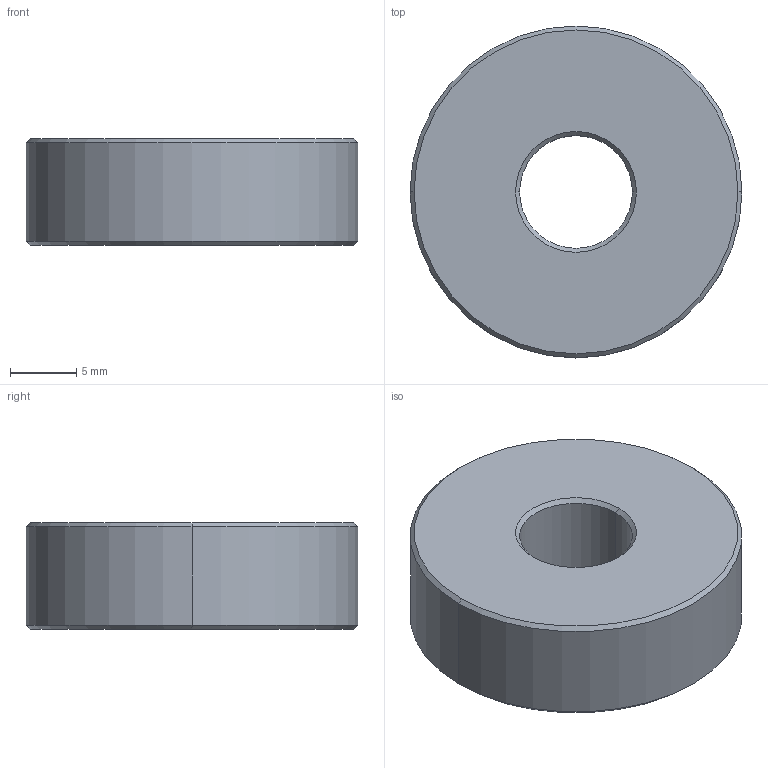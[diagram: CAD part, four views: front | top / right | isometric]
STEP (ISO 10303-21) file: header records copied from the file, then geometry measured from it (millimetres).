
FILE_DESCRIPTION (( 'STEP AP214' ), '1' );
FILE_NAME ('FW41_25xM10.STEP', '2016-04-15T17:47:07', ( '' ), ( '' ), 'SwSTEP 2.0', 'SolidWorks 2014', '' );
FILE_SCHEMA (( 'AUTOMOTIVE_DESIGN' ));
Length unit declared in the file: millimetre
Products named in the file (1): FW41_25xM10
Bounding box: 25 x 25 x 8 mm (x, y, z)
Volume: 3463.6 mm3; surface area: 1673.2 mm2
Topology: 1 solids, 1 shells, 14 faces, 28 edges, 16 vertices
Faces by surface type: cone 8, cylinder 4, plane 2
Entity records: 402 total; most frequent: DIRECTION 74, CARTESIAN_POINT 59, ORIENTED_EDGE 56, AXIS2_PLACEMENT_3D 31, EDGE_CURVE 28, VERTEX_POINT 16, CIRCLE 16, EDGE_LOOP 16
